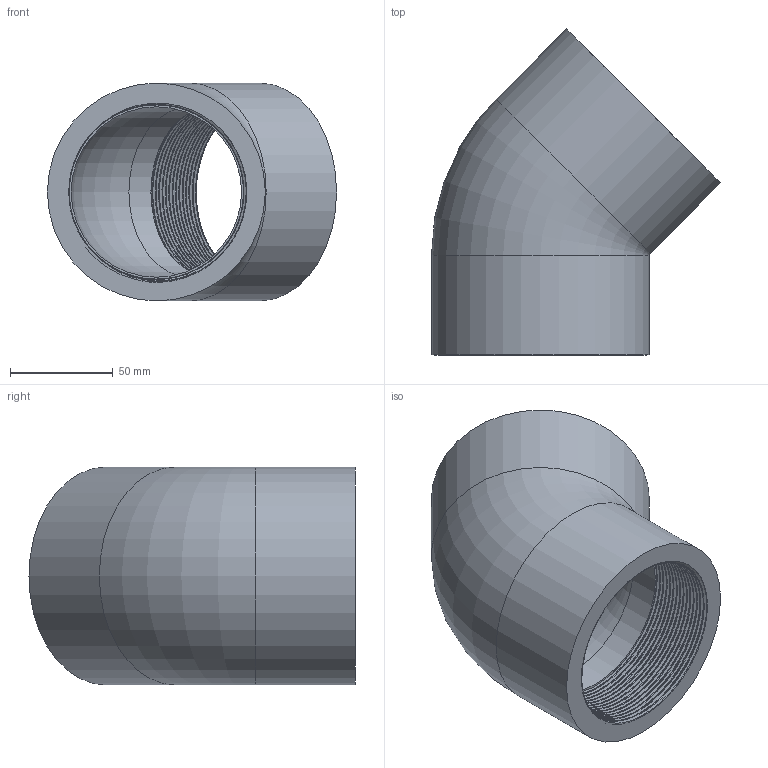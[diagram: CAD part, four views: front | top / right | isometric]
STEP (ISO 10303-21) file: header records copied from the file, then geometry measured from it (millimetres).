
FILE_DESCRIPTION(/* description */ ('PVC gomito a 45° incollaggio metrico'),/* implementation_level */ '2;1');
FILE_NAME(/* name */ 'C:\Users\POLYPIPE\Desktop\DATASET INVENTOR\LIBRERIA EFFAST\RACCORDI 3DxWEB\RER\3D_RERGYE\3D_RERGYE090I.stp',/* time_stamp */ '2018-01-19T16:34:52+01:00',/* author */ ('POLYPIPE'),/* organization */ ('Polypipe Italia s.r.l.'),/* preprocessor_version */ 'ST-DEVELOPER v16.1',/* originating_system */ 'Autodesk Inventor 2016',/* authorisation */ '');
FILE_SCHEMA (('CONFIG_CONTROL_DESIGN'));
Length unit declared in the file: millimetre
Products named in the file (1): 3D_RERGYE
Bounding box: 140.68 x 158.68 x 106 mm (x, y, z)
Volume: 446638.6 mm3; surface area: 104615.3 mm2
Topology: 1 solids, 1 shells, 24 faces, 50 edges, 30 vertices
Faces by surface type: bspline 10, cylinder 6, plane 6, torus 2
Full cylindrical faces by diameter (mm): 82.926 x2, 84.926 x2, 106 x2
Entity records: 12190 total; most frequent: CARTESIAN_POINT 11735, ORIENTED_EDGE 88, DIRECTION 68, EDGE_CURVE 44, EDGE_LOOP 34, AXIS2_PLACEMENT_3D 31, VERTEX_POINT 30, FACE_OUTER_BOUND 24
